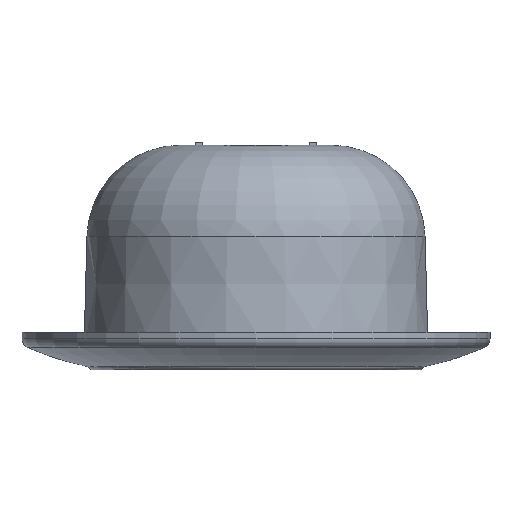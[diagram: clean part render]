
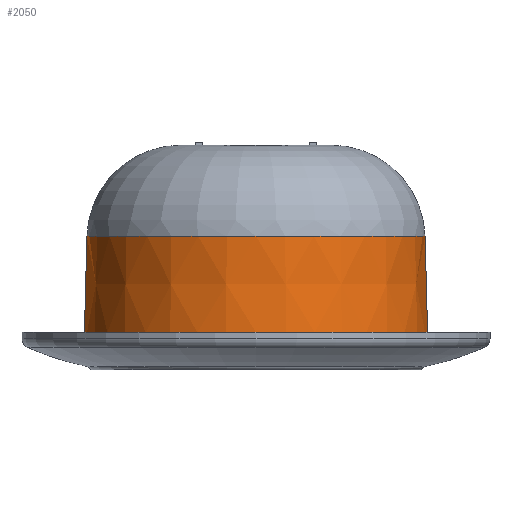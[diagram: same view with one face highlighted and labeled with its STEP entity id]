
A CAD part, front view. The second image highlights one B-rep face of the part: STEP entity #2050.
In plain terms, the highlighted conical face has half-angle 1.5 degrees and reference radius 27.5 mm.
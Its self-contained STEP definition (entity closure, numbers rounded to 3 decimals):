
#2050 = ADVANCED_FACE ( 'NONE', ( #6030 ), #5987, .T. ) ;
#2051 = EDGE_LOOP ( 'NONE', ( #2052, #2056, #2058, #2059 ) ) ;
#2052 = ORIENTED_EDGE ( 'NONE', *, *, #2053, .F. ) ;
#2053 = EDGE_CURVE ( 'NONE', #2054, #2055, #5986, .T. ) ;
#2054 = VERTEX_POINT ( 'NONE', #5978 ) ;
#2055 = VERTEX_POINT ( 'NONE', #5977 ) ;
#2056 = ORIENTED_EDGE ( 'NONE', *, *, #2057, .T. ) ;
#2057 = EDGE_CURVE ( 'NONE', #2054, #2078, #5976, .T. ) ;
#2058 = ORIENTED_EDGE ( 'NONE', *, *, #2077, .T. ) ;
#2059 = ORIENTED_EDGE ( 'NONE', *, *, #2060, .T. ) ;
#2060 = EDGE_CURVE ( 'NONE', #2079, #2055, #5971, .T. ) ;
#2077 = EDGE_CURVE ( 'NONE', #2078, #2079, #5944, .T. ) ;
#2078 = VERTEX_POINT ( 'NONE', #5940 ) ;
#2079 = VERTEX_POINT ( 'NONE', #5939 ) ;
#5939 = CARTESIAN_POINT ( 'NONE',  ( -27.5, -7.75, 0. ) ) ;
#5940 = CARTESIAN_POINT ( 'NONE',  ( -27.097, -7.75, 15.393 ) ) ;
#5941 = DIRECTION ( 'NONE',  ( -0.026, 0., -1. ) ) ;
#5942 = VECTOR ( 'NONE', #5941, 1000. ) ;
#5943 = CARTESIAN_POINT ( 'NONE',  ( -27.5, -7.75, 0. ) ) ;
#5944 = LINE ( 'NONE', #5943, #5942 ) ;
#5967 = DIRECTION ( 'NONE',  ( 1., 0., 0. ) ) ;
#5968 = DIRECTION ( 'NONE',  ( 0., 0., 1. ) ) ;
#5969 = CARTESIAN_POINT ( 'NONE',  ( 0., -7.75, 0. ) ) ;
#5970 = AXIS2_PLACEMENT_3D ( 'NONE', #5969, #5968, #5967 ) ;
#5971 = CIRCLE ( 'NONE', #5970, 27.5 ) ;
#5972 = DIRECTION ( 'NONE',  ( 1., 0., 0. ) ) ;
#5973 = DIRECTION ( 'NONE',  ( 0., 0., -1. ) ) ;
#5974 = CARTESIAN_POINT ( 'NONE',  ( 0., -7.75, 15.393 ) ) ;
#5975 = AXIS2_PLACEMENT_3D ( 'NONE', #5974, #5973, #5972 ) ;
#5976 = CIRCLE ( 'NONE', #5975, 27.097 ) ;
#5977 = CARTESIAN_POINT ( 'NONE',  ( 27.5, -7.75, 0. ) ) ;
#5978 = CARTESIAN_POINT ( 'NONE',  ( 27.097, -7.75, 15.393 ) ) ;
#5979 = DIRECTION ( 'NONE',  ( 0.026, 0., -1. ) ) ;
#5980 = VECTOR ( 'NONE', #5979, 1000. ) ;
#5981 = CARTESIAN_POINT ( 'NONE',  ( 27.5, -7.75, 0. ) ) ;
#5982 = DIRECTION ( 'NONE',  ( 1., 0., 0. ) ) ;
#5983 = DIRECTION ( 'NONE',  ( 0., 0., -1. ) ) ;
#5984 = CARTESIAN_POINT ( 'NONE',  ( 0., -7.75, 0. ) ) ;
#5985 = AXIS2_PLACEMENT_3D ( 'NONE', #5984, #5983, #5982 ) ;
#5986 = LINE ( 'NONE', #5981, #5980 ) ;
#5987 = CONICAL_SURFACE ( 'NONE', #5985, 27.5, 0.026 ) ;
#6030 = FACE_OUTER_BOUND ( 'NONE', #2051, .T. ) ;
